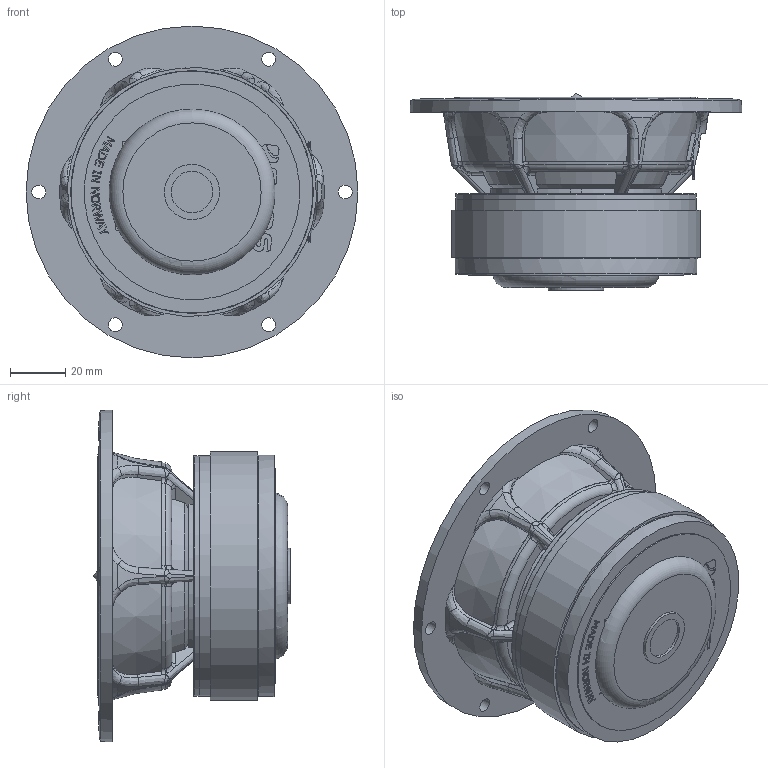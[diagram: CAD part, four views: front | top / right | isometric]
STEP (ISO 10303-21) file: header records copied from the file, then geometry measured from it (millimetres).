
FILE_DESCRIPTION(/* description */ (''),/* implementation_level */ '2;1');
FILE_NAME(/* name */ 'F:\Files\Speakdta\WEB\3D-filer til WEB\E0070_W12CY004.stp',/* time_stamp */ '2023-11-01T07:44:21+01:00',/* author */ ('svein'),/* organization */ (''),/* preprocessor_version */ 'ST-DEVELOPER v18.1',/* originating_system */ 'Autodesk Inventor 2022',/* authorisation */ '');
FILE_SCHEMA (('CONFIG_CONTROL_DESIGN'));
Length unit declared in the file: millimetre
Products named in the file (1): W12CY004_Simplify_1
Bounding box: 120 x 71.1 x 120 mm (x, y, z)
Volume: 350445.7 mm3; surface area: 61166.8 mm2
Topology: 1 solids, 1 shells, 597 faces, 1635 edges, 1061 vertices
Faces by surface type: plane 303, bspline 153, cylinder 71, cone 47, torus 22, sphere 1
Full cylindrical faces by diameter (mm): 5 x6, 8.3 x6, 15 x1, 20 x1, 24.9 x1, 25.8 x1, 25.96 x1, 26.15 x1, 56.3 x1, 72.8 x1, 78 x1, 87 x1, 87.2 x1, 87.5 x1, 90 x1, 97 x1, 101.8 x1
Entity records: 24256 total; most frequent: CARTESIAN_POINT 9513, ORIENTED_EDGE 3270, DIRECTION 2393, EDGE_CURVE 1635, VERTEX_POINT 1061, LINE 799, VECTOR 799, AXIS2_PLACEMENT_3D 797
